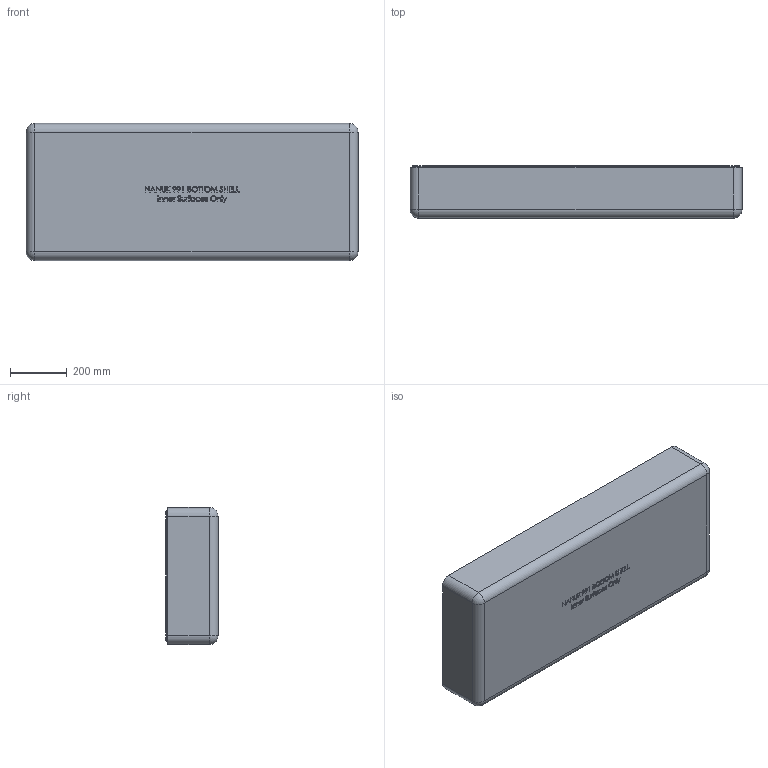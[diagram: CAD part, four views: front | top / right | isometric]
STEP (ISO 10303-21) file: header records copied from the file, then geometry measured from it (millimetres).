
FILE_DESCRIPTION (( 'STEP AP203' ), '1' );
FILE_NAME ('991_BOTTOM INNER SURFACES step.STEP', '2023-01-31T21:47:06', ( 'Sylvain' ), ( '' ), 'SwSTEP 2.0', 'SolidWorks 2022', '' );
FILE_SCHEMA (( 'CONFIG_CONTROL_DESIGN' ));
Products named in the file (1): 991_BOTTOM INNER SURFACES step
Bounding box: 1168.4 x 183.62 x 482.6 mm (x, y, z)
Volume: 24669822 mm3; surface area: 2178869.2 mm2
Topology: 1 solids, 1 shells, 3298 faces, 8143 edges, 4574 vertices
Faces by surface type: bspline 1780, plane 630, cylinder 472, torus 184, cone 124, sphere 108
Entity records: 171510 total; most frequent: CARTESIAN_POINT 108768, ORIENTED_EDGE 15582, DIRECTION 9629, EDGE_CURVE 7791, VERTEX_POINT 4574, AXIS2_PLACEMENT_3D 3677, EDGE_LOOP 3379, ADVANCED_FACE 3298
